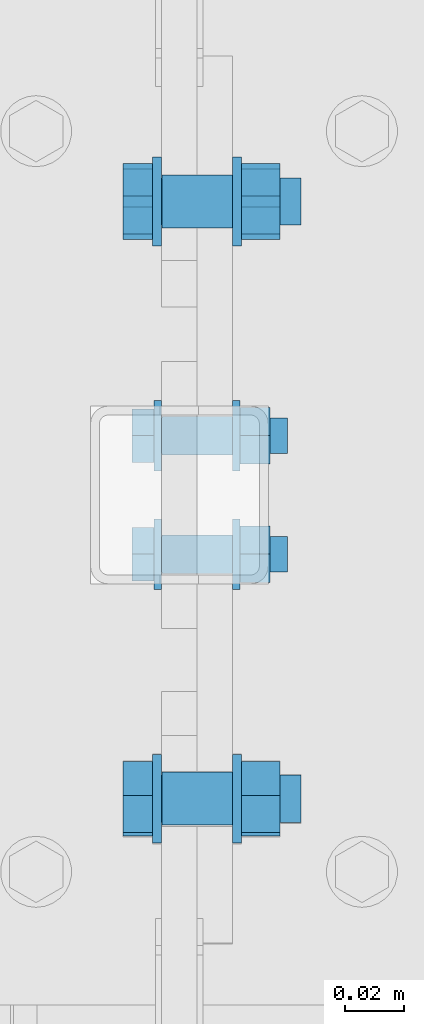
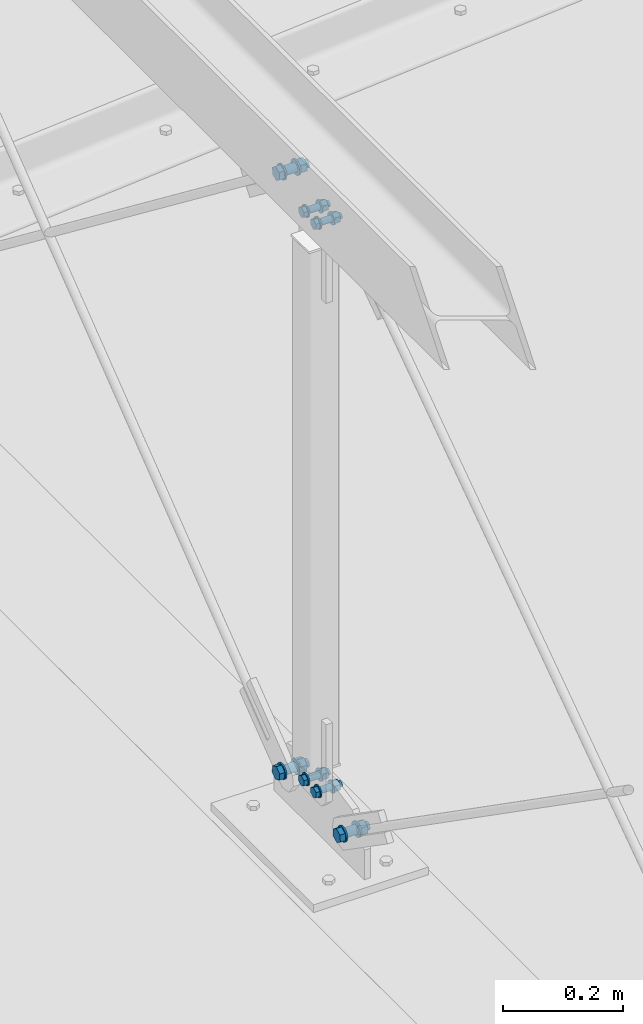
# One storey, part 241 of 271: 5 mechanical fasteners, 4 elements without a shape of their own.
"""IFC2X3 building model written with IfcOpenShell, lengths in millimetres."""

from ifc_helpers import new_model, si_unit, frame, origin_with_axes, origin_2d_with_axis, place, context, subcontext, project, spatial, polyline, circle, outline, extrude, source, transform, mapped, material, type_object, element, aggregate, save


model = new_model("IFC2X3")

# Units and contexts
model_context = context("Model", 3, precision=1e-05, world=origin_with_axes())
body_context = subcontext(model_context, "Body", "Model", "MODEL_VIEW")
ifc_project = project(units=[si_unit("LENGTHUNIT", "METRE", prefix="MILLI"), si_unit("AREAUNIT", "SQUARE_METRE"), si_unit("VOLUMEUNIT", "CUBIC_METRE"), si_unit("MASSUNIT", "GRAM", prefix="KILO"), si_unit("TIMEUNIT", "SECOND"), si_unit("PLANEANGLEUNIT", "RADIAN"), si_unit("SOLIDANGLEUNIT", "STERADIAN"), si_unit("THERMODYNAMICTEMPERATUREUNIT", "DEGREE_CELSIUS"), si_unit("LUMINOUSINTENSITYUNIT", "LUMEN")], contexts=[model_context])

# Site, building, storey
site_placement = place(None, origin_with_axes())
site = spatial("IfcSite", under=ifc_project, at=site_placement, Name="Undefined", CompositionType="ELEMENT")
building_placement = place(site_placement, origin_with_axes())
building = spatial("IfcBuilding", under=site, at=building_placement, Name="Undefined", CompositionType="ELEMENT")
storey_placement = place(building_placement, origin_with_axes())
storey = spatial("IfcBuildingStorey", under=building, at=storey_placement, Name="Undefined", CompositionType="ELEMENT", Elevation=0.0)

# Assembly, mechanical fastener
assembly_1_placement = place(storey_placement, origin_with_axes())
assembly_1 = element("IfcElementAssembly", 1, at=assembly_1_placement, inside=storey, AssemblyPlace="NOTDEFINED", PredefinedType="RIGID_FRAME")
ifc_material = material(Name="Undefined")
mechanical_fastener_type = type_object("IfcMechanicalFastenerType", Name="Bolt assembly")
shared_shape_1 = source(origin_with_axes(), body_context, "Body", "SweptSolid", [
    extrude(circle(Radius=9.0, at=origin_2d_with_axis()), frame((0.0, -6.1, 0.0), z_axis=(0.0, 1.0, 0.0), x_axis=(1.0, 0.0, 0.0)), (0.0, 0.0, 1.0), 12.1),
    extrude(circle(Radius=9.0, at=origin_2d_with_axis()), frame((0.0, -17.9, 0.0), z_axis=(0.0, 1.0, 0.0), x_axis=(1.0, 0.0, 0.0)), (0.0, 0.0, 1.0), 12.0),
    extrude(outline(polyline([(13.85640646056, 0.0), (6.92820323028, 12.0000000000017), (-6.92820323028, 12.0000000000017), (-13.85640646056, 0.0), (-6.92820323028, -12.0000000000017), (6.92820323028, -12.0000000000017), (13.85640646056, 0.0)])), frame((0.0, -31.0, 0.0), z_axis=(0.0, 1.0, 0.0), x_axis=(1.0, 0.0, 0.0)), (0.0, 0.0, 1.0), 10.0),
    extrude(circle(Radius=8.0, at=origin_2d_with_axis()), frame((0.0, -21.0, 0.0), z_axis=(0.0, 1.0, 0.0), x_axis=(1.0, 0.0, 0.0)), (0.0, 0.0, 1.0), 50.0),
    extrude(circle(Radius=15.0, at=origin_2d_with_axis()), frame((0.0, -21.0, 0.0), z_axis=(0.0, 1.0, 0.0), x_axis=(1.0, 0.0, 0.0)), (0.0, 0.0, 1.0), 3.0),
    extrude(circle(Radius=15.0, at=origin_2d_with_axis()), frame((0.0, 6.0, 0.0), z_axis=(0.0, 1.0, 0.0), x_axis=(1.0, 0.0, 0.0)), (0.0, 0.0, 1.0), 3.0),
    extrude(outline(polyline([(13.85640646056, 0.0), (6.92820323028, 12.0000000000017), (-6.92820323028, 12.0000000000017), (-13.85640646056, 0.0), (-6.92820323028, -12.0000000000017), (6.92820323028, -12.0000000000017), (13.85640646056, 0.0)])), frame((0.0, 9.0, 0.0), z_axis=(0.0, 1.0, 0.0), x_axis=(1.0, 0.0, 0.0)), (0.0, 0.0, 1.0), 13.0),
])
mechanical_fastener_1_placement = place(assembly_1_placement, frame((6359.37568798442, 2078.27000552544, 73.4335558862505), z_axis=(0.0, 0.609061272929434, -0.793123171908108), x_axis=(0.0, 0.793123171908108, 0.609061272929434)))
mechanical_fastener_1 = element("IfcMechanicalFastener", 2, at=mechanical_fastener_1_placement, type_object=mechanical_fastener_type, material=ifc_material, Name="Bolt assembly", NominalDiameter=16.0, NominalLength=50.0, context=body_context, shape_type="MappedRepresentation", body=[
    mapped(shared_shape_1, transform((0.0, 0.0, 0.0))),
])
aggregate(assembly_1, [mechanical_fastener_1])

assembly_2_placement = place(storey_placement, origin_with_axes())
assembly_2 = element("IfcElementAssembly", 3, at=assembly_2_placement, inside=storey, AssemblyPlace="NOTDEFINED", PredefinedType="RIGID_FRAME")
mechanical_fastener_2_placement = place(assembly_2_placement, frame((6359.37568798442, 1876.66828986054, 68.5626419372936), z_axis=(0.0, 0.570474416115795, 0.821315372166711), x_axis=(0.0, -0.821315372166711, 0.570474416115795)))
mechanical_fastener_2 = element("IfcMechanicalFastener", 4, at=mechanical_fastener_2_placement, type_object=mechanical_fastener_type, material=ifc_material, Name="Bolt assembly", NominalDiameter=16.0, NominalLength=50.0, context=body_context, shape_type="MappedRepresentation", body=[
    mapped(shared_shape_1, transform((0.0, 0.0, 0.0))),
])
aggregate(assembly_2, [mechanical_fastener_2])

assembly_3_placement = place(storey_placement, origin_with_axes())
assembly_3 = element("IfcElementAssembly", 5, at=assembly_3_placement, inside=storey, AssemblyPlace="NOTDEFINED", PredefinedType="RIGID_FRAME")
mechanical_fastener_3_placement = place(assembly_3_placement, frame((6359.37568798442, 2078.271655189, 1288.29752332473), z_axis=(0.0, -0.60889835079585, -0.793248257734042), x_axis=(0.0, 0.793248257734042, -0.60889835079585)))
mechanical_fastener_3 = element("IfcMechanicalFastener", 6, at=mechanical_fastener_3_placement, type_object=mechanical_fastener_type, material=ifc_material, Name="Bolt assembly", NominalDiameter=16.0, NominalLength=50.0, context=body_context, shape_type="MappedRepresentation", body=[
    mapped(shared_shape_1, transform((0.0, 0.0, 0.0))),
])
aggregate(assembly_3, [mechanical_fastener_3])

# Assembly, mechanical fasteners
assembly_4_placement = place(storey_placement, origin_with_axes())
assembly_4 = element("IfcElementAssembly", 7, at=assembly_4_placement, inside=storey, AssemblyPlace="NOTDEFINED", PredefinedType="RIGID_FRAME")
shared_shape_2 = source(origin_with_axes(), body_context, "Body", "SweptSolid", [
    extrude(circle(Radius=6.5, at=origin_2d_with_axis()), frame((0.0, -6.1, 0.0), z_axis=(0.0, 1.0, 0.0), x_axis=(1.0, 0.0, 0.0)), (0.0, 0.0, 1.0), 12.1),
    extrude(circle(Radius=6.5, at=origin_2d_with_axis()), frame((0.0, -17.9, 0.0), z_axis=(0.0, 1.0, 0.0), x_axis=(1.0, 0.0, 0.0)), (0.0, 0.0, 1.0), 12.0),
    extrude(outline(polyline([(10.39230484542, 0.0), (5.19615242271, 9.00000000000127), (-5.19615242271, 9.00000000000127), (-10.39230484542, 0.0), (-5.19615242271, -9.00000000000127), (5.19615242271, -9.00000000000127), (10.39230484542, 0.0)])), frame((0.0, -28.0, 0.0), z_axis=(0.0, 1.0, 0.0), x_axis=(1.0, 0.0, 0.0)), (0.0, 0.0, 1.0), 7.5),
    extrude(circle(Radius=6.0, at=origin_2d_with_axis()), frame((0.0, -20.5, 0.0), z_axis=(0.0, 1.0, 0.0), x_axis=(1.0, 0.0, 0.0)), (0.0, 0.0, 1.0), 45.0),
    extrude(circle(Radius=12.0, at=origin_2d_with_axis()), frame((0.0, -20.5, 0.0), z_axis=(0.0, 1.0, 0.0), x_axis=(1.0, 0.0, 0.0)), (0.0, 0.0, 1.0), 2.5),
    extrude(circle(Radius=12.0, at=origin_2d_with_axis()), frame((0.0, 6.0, 0.0), z_axis=(0.0, 1.0, 0.0), x_axis=(1.0, 0.0, 0.0)), (0.0, 0.0, 1.0), 2.5),
    extrude(outline(polyline([(10.96965511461, 0.0), (5.484827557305, 9.50000000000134), (-5.484827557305, 9.50000000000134), (-10.96965511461, 0.0), (-5.484827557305, -9.50000000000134), (5.484827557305, -9.50000000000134), (10.96965511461, 0.0)])), frame((0.0, 8.5, 0.0), z_axis=(0.0, 1.0, 0.0), x_axis=(1.0, 0.0, 0.0)), (0.0, 0.0, 1.0), 10.0),
])
mechanical_fastener_4_placement = place(assembly_4_placement, frame((6359.37568798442, 1979.19355050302, 104.875726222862), z_axis=(0.0, 1.0, 0.0), x_axis=(0.0, 0.0, 1.0)))
mechanical_fastener_4 = element("IfcMechanicalFastener", 8, at=mechanical_fastener_4_placement, type_object=mechanical_fastener_type, material=ifc_material, Name="Bolt assembly", NominalDiameter=12.0, NominalLength=45.0, context=body_context, shape_type="MappedRepresentation", body=[
    mapped(shared_shape_2, transform((0.0, 0.0, -20.0))),
    mapped(shared_shape_2, transform((0.0, 0.0, 20.0))),
])
mechanical_fastener_5_placement = place(assembly_4_placement, frame((6359.37568798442, 1979.19355050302, 1256.59999990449), z_axis=(0.0, -1.0, 0.0), x_axis=(0.0, 0.0, -1.0)))
mechanical_fastener_5 = element("IfcMechanicalFastener", 9, at=mechanical_fastener_5_placement, type_object=mechanical_fastener_type, material=ifc_material, Name="Bolt assembly", NominalDiameter=12.0, NominalLength=45.0, context=body_context, shape_type="MappedRepresentation", body=[
    mapped(shared_shape_2, transform((0.0, 0.0, -20.0))),
    mapped(shared_shape_2, transform((0.0, 0.0, 20.0))),
])
aggregate(assembly_4, [mechanical_fastener_4, mechanical_fastener_5])

save(model, "model.ifc")
